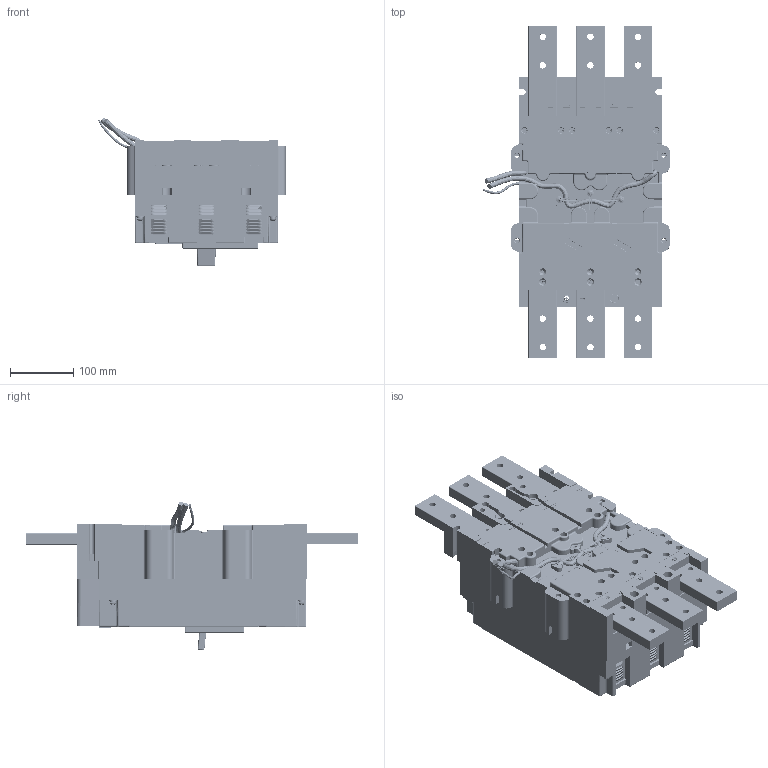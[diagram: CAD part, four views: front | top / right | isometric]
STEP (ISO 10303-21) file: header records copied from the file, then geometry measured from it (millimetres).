
FILE_DESCRIPTION (( 'STEP AP203' ), '1' );
FILE_NAME ('臍55(53)-41.STEP', '2014-12-04T07:36:02', ( 'admin' ), ( '' ), 'SwSTEP 2.0', 'SolidWorks 2007', '' );
FILE_SCHEMA (( 'CONFIG_CONTROL_DESIGN' ));
Products named in the file (1): 臍55(53)-41
Bounding box: 295.26 x 523 x 233.97 mm (x, y, z)
Surface area: 1159681.5 mm2 (no closed solid volume)
Topology: 0 solids, 576 shells, 3736 faces, 17894 edges, 14374 vertices
Faces by surface type: plane 1956, cylinder 1115, bspline 341, torus 146, cone 138, sphere 40
Entity records: 220858 total; most frequent: CARTESIAN_POINT 86264, DIRECTION 25587, ORIENTED_EDGE 24116, EDGE_CURVE 17853, VERTEX_POINT 14374, VECTOR 11021, LINE 11021, AXIS2_PLACEMENT_3D 7283
